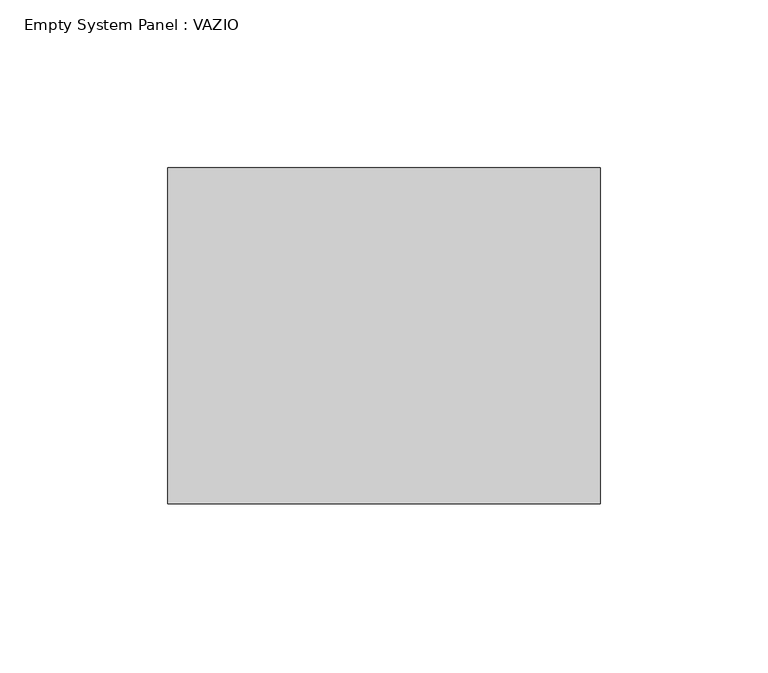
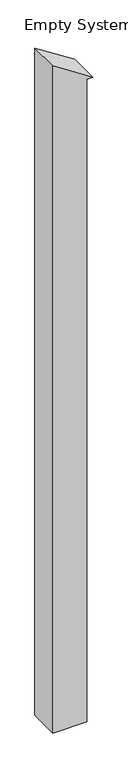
"""IFC4 building model written with IfcOpenShell, lengths in millimetres: plate geometry, Empty System Panel : VAZIO."""

from ifc_helpers import new_model, si_unit, point, frame, frame_2d, origin, place, context, project, spatial, polyline, circle_curve, trimmed, segment, composite_curve, outline, extrude, source, transform, mapped, element, save


def empty_system_panel_vazio_90e492d3(model_context):
    return source(origin(), model_context, "Body", "SweptSolid", [
        extrude(outline(composite_curve([segment(polyline([(0.0, -64.3902439), (0.0, 44.3902439), (2188.2080959, 44.3902439), (2188.2080959, 64.3902439)]), True, "CONTINUOUS"), segment(trimmed(circle_curve(frame_2d((-470.6496213, -1740.9756098)), 3213.8559746), [point((2188.2080959, 64.3902439))], [point((2271.2350839, -64.3902439))], False, "CARTESIAN"), True, "CONTINUOUS"), segment(polyline([(2271.2350839, -64.3902439), (0.0, -64.3902439)]), True, "CONTINUOUS")], self_intersect=False)), frame((0.0, -50.0, 0.0), z_axis=(0.0, 1.0, 0.0), x_axis=(0.0, 0.0, 1.0)), (0.0, 0.0, 1.0), 100.0),
    ])


if __name__ == "__main__":
    model = new_model("IFC4")
    model_context = context("Model", 3, world=origin())
    ifc_project = project(units=[si_unit("LENGTHUNIT", "METRE", prefix="MILLI")], contexts=[model_context])
    site = spatial("IfcSite", under=ifc_project)
    building = spatial("IfcBuilding", under=site)
    placement = place(None, origin())
    empty_system_panel_vazio_shape = empty_system_panel_vazio_90e492d3(model_context)
    element("IfcPlate", 1, ObjectType="Empty System Panel : VAZIO", at=placement, inside=building, context=model_context, shape_type="MappedRepresentation", body=[
        mapped(empty_system_panel_vazio_shape, transform((0.0, 0.0, 0.0), x_axis=(1.0, 0.0, 0.0), y_axis=(0.0, 1.0, 0.0), z_axis=(0.0, 0.0, 1.0))),
    ])
    save(model, "model.ifc")
